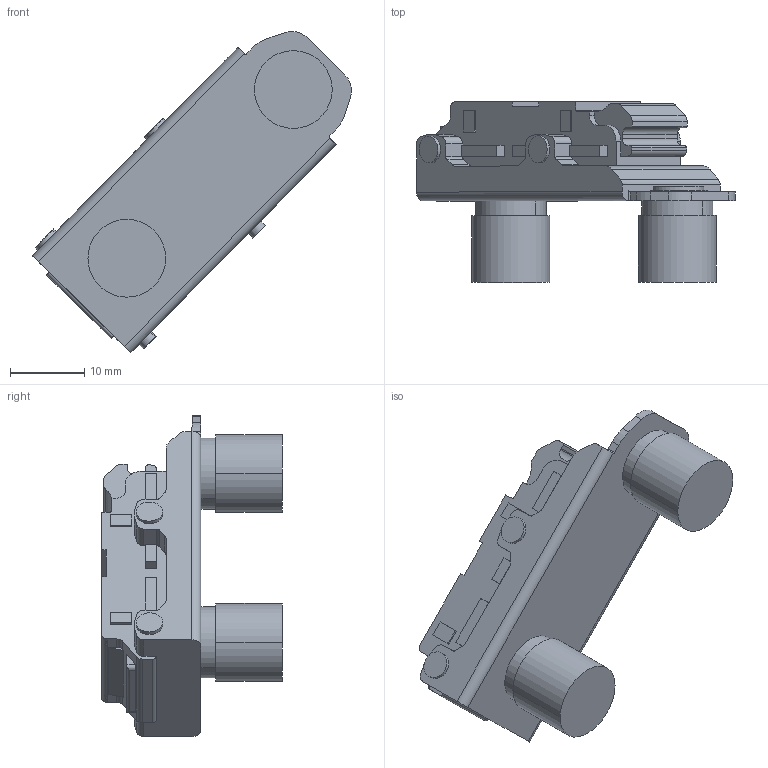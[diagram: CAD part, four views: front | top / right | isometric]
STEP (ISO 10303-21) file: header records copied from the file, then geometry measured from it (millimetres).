
FILE_DESCRIPTION (( 'STEP AP203' ), '1' );
FILE_NAME ('82H4MYQ-DTC 3D.STEP', '2024-07-11T02:44:42', ( '微软用户' ), ( '微软中国' ), 'SwSTEP 2.0', 'SolidWorks 2021', '' );
FILE_SCHEMA (( 'CONFIG_CONTROL_DESIGN' ));
Length unit declared in the file: millimetre
Products named in the file (1): 82H4MYQ-DTC 3D
Bounding box: 43.05 x 24.4 x 43.34 mm (x, y, z)
Volume: 9316 mm3; surface area: 4150.6 mm2
Topology: 1 solids, 16 shells, 423 faces, 1116 edges, 744 vertices
Faces by surface type: plane 284, cylinder 85, bspline 52, torus 2
Entity records: 15989 total; most frequent: CARTESIAN_POINT 5617, ORIENTED_EDGE 2232, DIRECTION 1921, EDGE_CURVE 1116, VECTOR 833, LINE 833, VERTEX_POINT 744, AXIS2_PLACEMENT_3D 544
